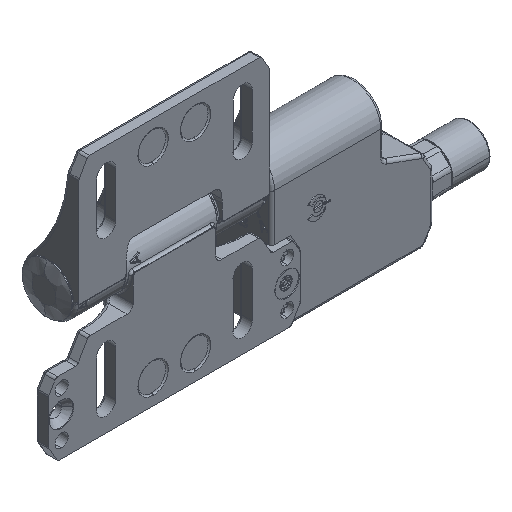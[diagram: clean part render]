
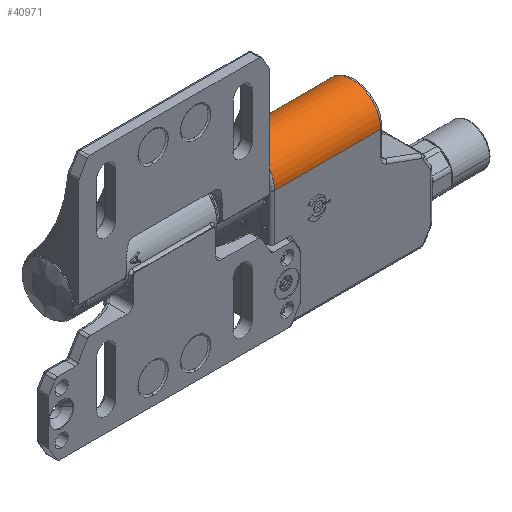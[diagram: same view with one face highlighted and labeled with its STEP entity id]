
A CAD part, isometric view. The second image highlights one B-rep face of the part: STEP entity #40971.
In plain terms, the highlighted cylindrical face has radius 9.5 mm (diameter 19 mm), a partial arc.
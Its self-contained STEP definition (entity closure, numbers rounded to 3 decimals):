
#5755=CARTESIAN_POINT('',(33.5,0.,0.));
#5756=DIRECTION('',(1.,0.,0.));
#5757=DIRECTION('',(0.,1.,0.));
#5758=AXIS2_PLACEMENT_3D('',#5755,#5756,#5757);
#5760=CARTESIAN_POINT('',(33.5,0.,0.));
#5761=DIRECTION('',(1.,0.,0.));
#5762=DIRECTION('',(0.,1.,0.017));
#5763=AXIS2_PLACEMENT_3D('',#5760,#5761,#5762);
#5765=CARTESIAN_POINT('',(33.5,0.,0.));
#5766=DIRECTION('',(1.,0.,0.));
#5767=DIRECTION('',(0.,0.,1.));
#5768=AXIS2_PLACEMENT_3D('',#5765,#5766,#5767);
#6762=CARTESIAN_POINT('',(68.5,0.,0.));
#6763=DIRECTION('',(-1.,0.,0.));
#6764=DIRECTION('',(0.,-1.,0.));
#6765=AXIS2_PLACEMENT_3D('',#6762,#6763,#6764);
#6767=CARTESIAN_POINT('',(68.5,0.,0.));
#6768=DIRECTION('',(-1.,0.,0.));
#6769=DIRECTION('',(0.,-1.,0.012));
#6770=AXIS2_PLACEMENT_3D('',#6767,#6768,#6769);
#6772=CARTESIAN_POINT('',(68.5,0.,0.));
#6773=DIRECTION('',(-1.,0.,0.));
#6774=DIRECTION('',(0.,0.,1.));
#6775=AXIS2_PLACEMENT_3D('',#6772,#6773,#6774);
#7866=DIRECTION('',(-1.,0.,0.));
#7867=VECTOR('',#7866,35.);
#7868=CARTESIAN_POINT('',(68.5,-9.5,0.));
#7869=LINE('',#7868,#7867);
#7870=DIRECTION('',(1.,0.,0.));
#7871=VECTOR('',#7870,35.);
#7872=CARTESIAN_POINT('',(33.5,9.5,0.));
#7873=LINE('',#7872,#7871);
#24814=CARTESIAN_POINT('',(33.5,-9.5,0.));
#24815=VERTEX_POINT('',#24814);
#24816=CARTESIAN_POINT('',(68.5,-9.5,0.));
#24817=VERTEX_POINT('',#24816);
#25630=CARTESIAN_POINT('',(68.5,9.5,0.));
#25632=VERTEX_POINT('',#25630);
#25634=CARTESIAN_POINT('',(33.5,9.5,0.));
#25635=VERTEX_POINT('',#25634);
#25690=CARTESIAN_POINT('',(33.5,0.,9.5));
#25691=VERTEX_POINT('',#25690);
#25692=CARTESIAN_POINT('',(33.5,9.499,0.166));
#25693=VERTEX_POINT('',#25692);
#25694=CARTESIAN_POINT('',(68.5,0.,9.5));
#25695=VERTEX_POINT('',#25694);
#25696=CARTESIAN_POINT('',(68.5,-9.499,0.117));
#25697=VERTEX_POINT('',#25696);
#40956=CARTESIAN_POINT('',(32.5,0.,0.));
#40957=DIRECTION('',(1.,0.,0.));
#40958=DIRECTION('',(0.,0.,-1.));
#40959=AXIS2_PLACEMENT_3D('',#40956,#40957,#40958);
#40960=CYLINDRICAL_SURFACE('',#40959,9.5);
#40961=ORIENTED_EDGE('',*,*,#38984,.F.);
#40962=ORIENTED_EDGE('',*,*,#38982,.F.);
#40963=ORIENTED_EDGE('',*,*,#38980,.F.);
#40964=ORIENTED_EDGE('',*,*,#31399,.T.);
#40965=ORIENTED_EDGE('',*,*,#37727,.F.);
#40966=ORIENTED_EDGE('',*,*,#37725,.F.);
#40967=ORIENTED_EDGE('',*,*,#37723,.F.);
#40968=ORIENTED_EDGE('',*,*,#37778,.T.);
#40969=EDGE_LOOP('',(#40961,#40962,#40963,#40964,#40965,#40966,#40967,#40968));
#40970=FACE_OUTER_BOUND('',#40969,.F.);
#40971=ADVANCED_FACE('',(#40970),#40960,.T.);
#5759=CIRCLE('',#5758,9.5);
#5764=CIRCLE('',#5763,9.5);
#5769=CIRCLE('',#5768,9.5);
#6766=CIRCLE('',#6765,9.5);
#6771=CIRCLE('',#6770,9.5);
#6776=CIRCLE('',#6775,9.5);
#31399=EDGE_CURVE('',#24817,#24815,#7869,.T.);
#37723=EDGE_CURVE('',#25635,#25693,#5759,.T.);
#37725=EDGE_CURVE('',#25693,#25691,#5764,.T.);
#37727=EDGE_CURVE('',#25691,#24815,#5769,.T.);
#37778=EDGE_CURVE('',#25635,#25632,#7873,.T.);
#38980=EDGE_CURVE('',#24817,#25697,#6766,.T.);
#38982=EDGE_CURVE('',#25697,#25695,#6771,.T.);
#38984=EDGE_CURVE('',#25695,#25632,#6776,.T.);
